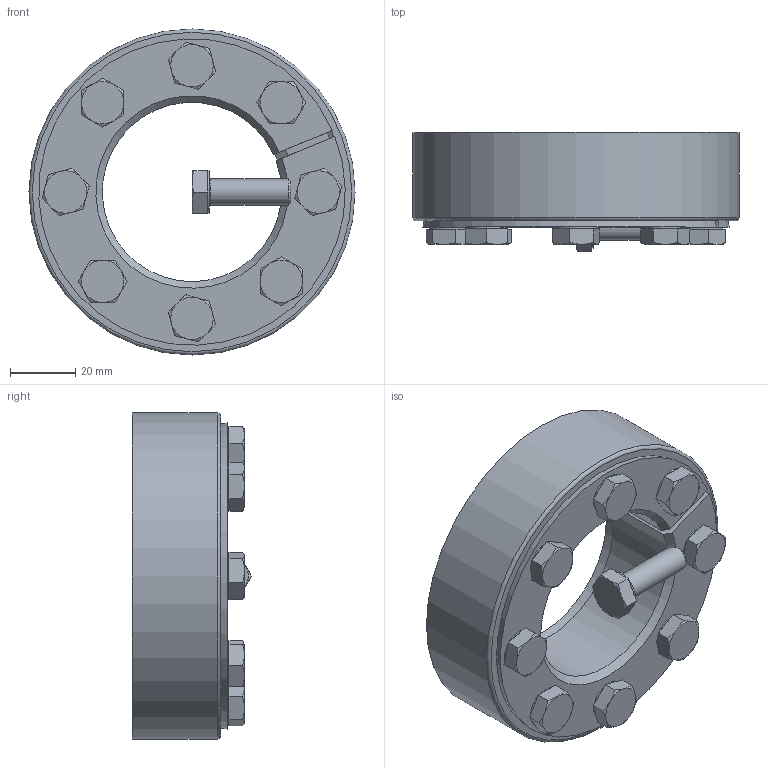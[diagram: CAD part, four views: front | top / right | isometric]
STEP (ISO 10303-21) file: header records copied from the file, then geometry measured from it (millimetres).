
FILE_DESCRIPTION( ( 'Unknown' ), '1' );
FILE_NAME( 'C:/Dokumente und Einstellungen/Sven/Desktop/homepage/cad - homepage/KBS19-1/KBS 19_1 - 55 x 100.stp', 'Unknown', ( 'Unknown' ), ( 'Unknown' ), 'XStep 1.0', 'Unknown', ' ' );
FILE_SCHEMA( ( 'automotive_design' ) );
Length unit declared in the file: millimetre
Products named in the file (3): Assem1; KBS 19_1 - 55 x 100; ISO 4017 - M8 x 25-N
Bounding box: 100 x 36.51 x 100 mm (x, y, z)
Volume: 305989.9 mm3; surface area: 71018.6 mm2
Topology: 11 solids, 11 shells, 271 faces, 606 edges, 366 vertices
Faces by surface type: plane 153, cone 69, cylinder 38, torus 11
Full cylindrical faces by diameter (mm): 8 x25, 13 x9, 100 x2
Entity records: 1650 total; most frequent: CARTESIAN_POINT 281, DIRECTION 240, ORIENTED_EDGE 198, AXIS2_PLACEMENT_3D 101, EDGE_CURVE 99, EDGE_LOOP 81, VERTEX_POINT 70, FACE_OUTER_BOUND 61
